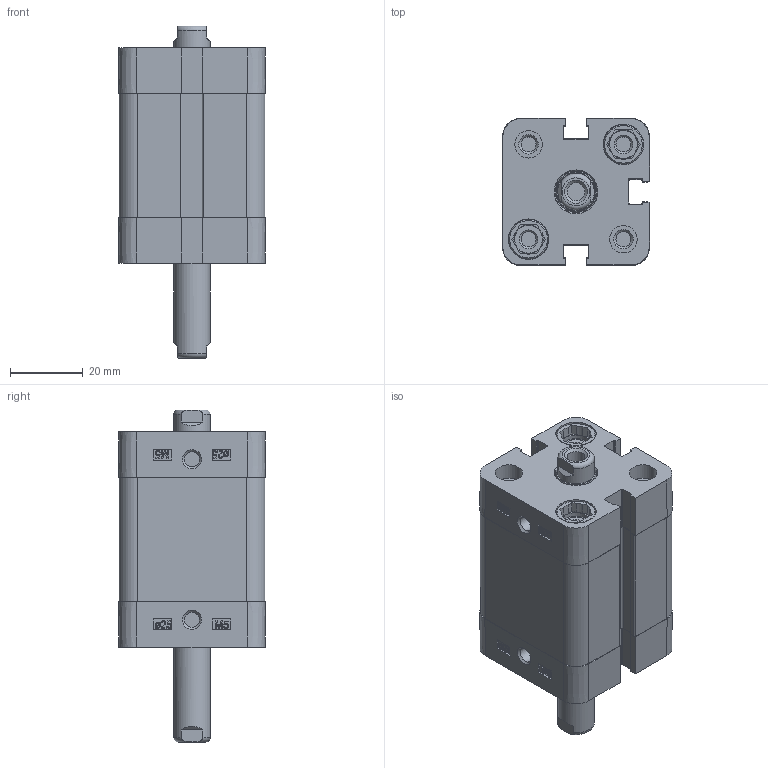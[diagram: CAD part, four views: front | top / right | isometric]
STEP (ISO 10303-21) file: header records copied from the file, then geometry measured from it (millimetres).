
FILE_DESCRIPTION(/* description */ ('Unknown'),/* implementation_level */ '2;1');
FILE_NAME(/* name */ 'ZBN 25_20',/* time_stamp */ '2025-01-28T07:40:38+01:00',/* author */ ('Unknown'),/* organization */ ('HAFNER Pneumatika Kft'),/* preprocessor_version */ 'ST-DEVELOPER v16.7',/* originating_system */ 'Solid Edge',/* authorisation */ 'Unknown');
FILE_SCHEMA (('AUTOMOTIVE_DESIGN {1 0 10303 214 3 1 1}'));
Length unit declared in the file: millimetre
Products named in the file (5): ZBN 25_20; Profilrohr; Kolbenstange; Kit_2; Kit_1
Assembly tree (5 placements, depth 2):
  ZBN 25_20
    Profilrohr
    Kolbenstange  x2
    Kit_2
    Kit_1
Bounding box: 40.3 x 40.3 x 91 mm (x, y, z)
Volume: 78456.7 mm3; surface area: 33510.3 mm2
Topology: 5 solids, 11 shells, 619 faces, 1621 edges, 1068 vertices
Faces by surface type: plane 310, cylinder 149, bspline 84, cone 56, torus 20
Full cylindrical faces by diameter (mm): 4.134 x10, 4.917 x4, 7.5 x4, 8 x8, 10 x2, 10.48 x2, 10.9 x4, 11.1 x4, 11.4 x2, 12 x2, 13.84 x2, 14 x2, 25 x3
Entity records: 22219 total; most frequent: CARTESIAN_POINT 4202, ORIENTED_EDGE 2902, DIRECTION 2698, EDGE_CURVE 1451, VERTEX_POINT 1015, AXIS2_PLACEMENT_3D 909, LINE 880, VECTOR 880
